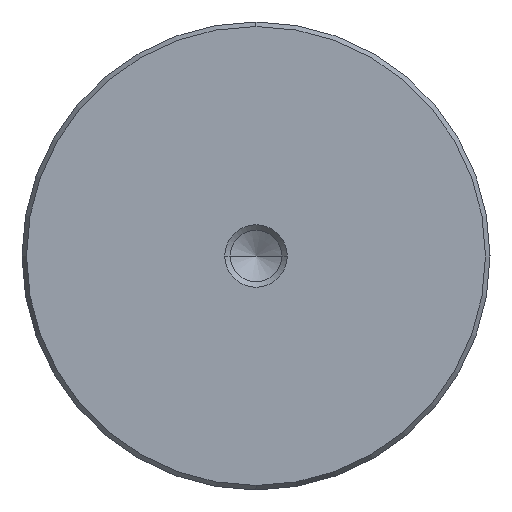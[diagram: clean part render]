
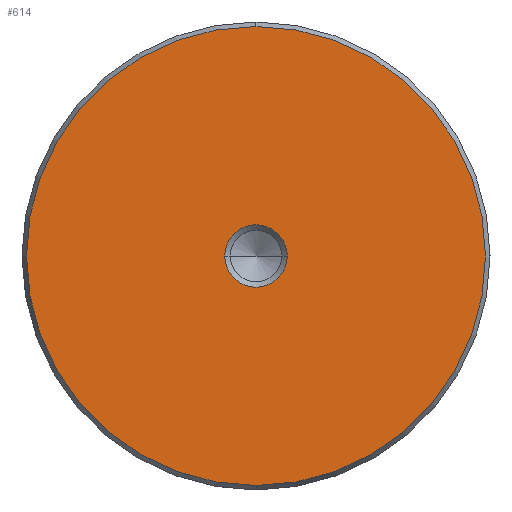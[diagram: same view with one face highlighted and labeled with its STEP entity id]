
A CAD part, left-side view. The second image highlights one B-rep face of the part: STEP entity #614.
In plain terms, the highlighted planar face has unit normal (-1, 0, 0).
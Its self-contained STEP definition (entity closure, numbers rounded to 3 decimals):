
#528=CARTESIAN_POINT('Vertex',(0.,0.,-29.423)) ;
#531=CARTESIAN_POINT('Axis2P3D Location',(0.,0.,0.)) ;
#535=CARTESIAN_POINT('Vertex',(0.,29.423,0.)) ;
#538=CARTESIAN_POINT('Axis2P3D Location',(0.,0.,0.)) ;
#542=CARTESIAN_POINT('Vertex',(0.,0.,29.423)) ;
#564=CARTESIAN_POINT('Axis2P3D Location',(0.,0.,0.)) ;
#568=CARTESIAN_POINT('Vertex',(0.,-29.423,0.)) ;
#571=CARTESIAN_POINT('Axis2P3D Location',(0.,0.,0.)) ;
#585=CARTESIAN_POINT('Axis2P3D Location',(0.,0.,0.)) ;
#596=CARTESIAN_POINT('Axis2P3D Location',(0.,0.,0.)) ;
#600=CARTESIAN_POINT('Vertex',(0.,4.,0.)) ;
#602=CARTESIAN_POINT('Vertex',(0.,-4.,0.)) ;
#605=CARTESIAN_POINT('Axis2P3D Location',(0.,0.,0.)) ;
#532=DIRECTION('Axis2P3D Direction',(1.,0.,-0.)) ;
#539=DIRECTION('Axis2P3D Direction',(1.,0.,-0.)) ;
#565=DIRECTION('Axis2P3D Direction',(1.,0.,-0.)) ;
#572=DIRECTION('Axis2P3D Direction',(1.,0.,-0.)) ;
#586=DIRECTION('Axis2P3D Direction',(1.,0.,-0.)) ;
#587=DIRECTION('Axis2P3D XDirection',(-0.,0.,-1.)) ;
#597=DIRECTION('Axis2P3D Direction',(1.,0.,-0.)) ;
#606=DIRECTION('Axis2P3D Direction',(1.,0.,-0.)) ;
#533=AXIS2_PLACEMENT_3D('Circle Axis2P3D',#531,#532,$) ;
#540=AXIS2_PLACEMENT_3D('Circle Axis2P3D',#538,#539,$) ;
#566=AXIS2_PLACEMENT_3D('Circle Axis2P3D',#564,#565,$) ;
#573=AXIS2_PLACEMENT_3D('Circle Axis2P3D',#571,#572,$) ;
#588=AXIS2_PLACEMENT_3D('Plane Axis2P3D',#585,#586,#587) ;
#598=AXIS2_PLACEMENT_3D('Circle Axis2P3D',#596,#597,$) ;
#607=AXIS2_PLACEMENT_3D('Circle Axis2P3D',#605,#606,$) ;
#591=ORIENTED_EDGE('',*,*,#537,.F.) ;
#592=ORIENTED_EDGE('',*,*,#575,.F.) ;
#593=ORIENTED_EDGE('',*,*,#570,.F.) ;
#594=ORIENTED_EDGE('',*,*,#544,.F.) ;
#611=ORIENTED_EDGE('',*,*,#604,.T.) ;
#612=ORIENTED_EDGE('',*,*,#609,.T.) ;
#613=FACE_BOUND('',#610,.T.) ;
#614=ADVANCED_FACE('720-60x280',(#595,#613),#589,.F.) ;
#534=CIRCLE('generated circle',#533,29.423) ;
#541=CIRCLE('generated circle',#540,29.423) ;
#567=CIRCLE('generated circle',#566,29.423) ;
#574=CIRCLE('generated circle',#573,29.423) ;
#599=CIRCLE('generated circle',#598,4.) ;
#608=CIRCLE('generated circle',#607,4.) ;
#537=EDGE_CURVE('',#529,#536,#534,.T.) ;
#544=EDGE_CURVE('',#536,#543,#541,.T.) ;
#570=EDGE_CURVE('',#543,#569,#567,.T.) ;
#575=EDGE_CURVE('',#569,#529,#574,.T.) ;
#604=EDGE_CURVE('',#601,#603,#599,.T.) ;
#609=EDGE_CURVE('',#603,#601,#608,.T.) ;
#590=EDGE_LOOP('',(#591,#592,#593,#594)) ;
#610=EDGE_LOOP('',(#611,#612)) ;
#595=FACE_OUTER_BOUND('',#590,.T.) ;
#589=PLANE('Plane',#588) ;
#529=VERTEX_POINT('',#528) ;
#536=VERTEX_POINT('',#535) ;
#543=VERTEX_POINT('',#542) ;
#569=VERTEX_POINT('',#568) ;
#601=VERTEX_POINT('',#600) ;
#603=VERTEX_POINT('',#602) ;
